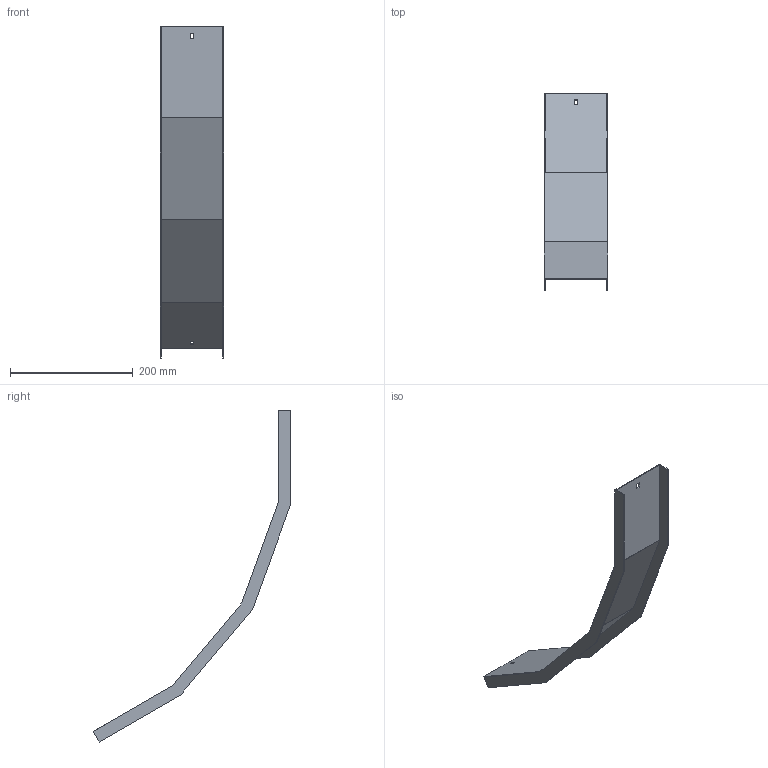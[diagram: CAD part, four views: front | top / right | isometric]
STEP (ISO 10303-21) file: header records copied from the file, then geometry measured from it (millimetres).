
FILE_DESCRIPTION (( 'STEP AP214' ), '1' );
FILE_NAME ('B2X40N5R100X.step', '2025-03-20T09:44:59', ( '' ), ( '' ), 'SwSTEP 2.0', 'SolidWorks 2023', '' );
FILE_SCHEMA (( 'AUTOMOTIVE_DESIGN' ));
Length unit declared in the file: millimetre
Products named in the file (1): B2X40N5R100X
Bounding box: 103 x 322.96 x 542.06 mm (x, y, z)
Volume: 137372.3 mm3; surface area: 185691.4 mm2
Topology: 1 solids, 1 shells, 30 faces, 84 edges, 56 vertices
Faces by surface type: plane 30
Entity records: 979 total; most frequent: CARTESIAN_POINT 171, ORIENTED_EDGE 168, DIRECTION 146, VECTOR 84, EDGE_CURVE 84, LINE 84, VERTEX_POINT 56, EDGE_LOOP 34
